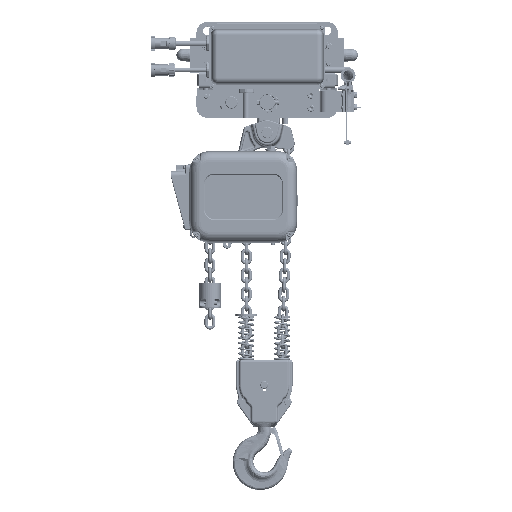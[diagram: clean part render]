
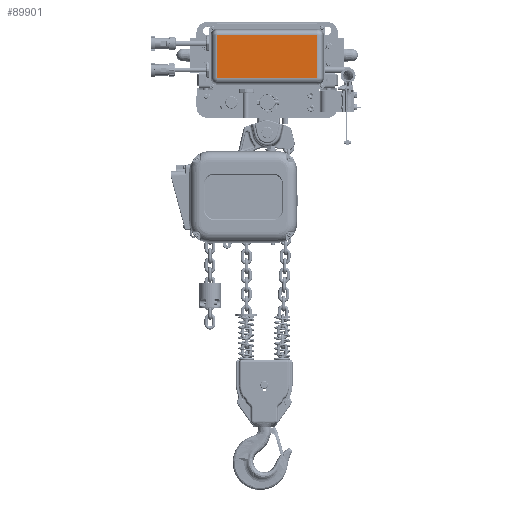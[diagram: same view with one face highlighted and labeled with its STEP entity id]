
A CAD part, top view. The second image highlights one B-rep face of the part: STEP entity #89901.
In plain terms, the highlighted planar face has unit normal (0, 0, 1) as drawn and (-1, 0, 0) by its records, which use the part's own axes.
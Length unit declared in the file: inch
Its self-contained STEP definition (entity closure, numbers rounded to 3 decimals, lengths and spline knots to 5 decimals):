
#8597 = CARTESIAN_POINT ( 'NONE',  ( -2.71654, 0.98144, 0.73446 ) ) ;
#23821 = EDGE_CURVE ( 'NONE', #378549, #71787, #36379, .T. ) ;
#32772 = EDGE_CURVE ( 'NONE', #71787, #352364, #250402, .T. ) ;
#36379 = LINE ( 'NONE', #395771, #359039 ) ;
#61605 = VECTOR ( 'NONE', #300827, 39.37008 ) ;
#64967 = CARTESIAN_POINT ( 'NONE',  ( -2.71654, 0.98144, 9.75453 ) ) ;
#71787 = VERTEX_POINT ( 'NONE', #388350 ) ;
#83465 = DIRECTION ( 'NONE',  ( 0., 0., 1. ) ) ;
#89901 = ADVANCED_FACE ( 'NONE', ( #100882 ), #345815, .T. ) ;
#100882 = FACE_OUTER_BOUND ( 'NONE', #146696, .T. ) ;
#103981 = VECTOR ( 'NONE', #186133, 39.37008 ) ;
#123447 = VECTOR ( 'NONE', #83465, 39.37008 ) ;
#128987 = DIRECTION ( 'NONE',  ( -1., 0., 0. ) ) ;
#146696 = EDGE_LOOP ( 'NONE', ( #290391, #189829, #222218, #284360 ) ) ;
#156022 = CARTESIAN_POINT ( 'NONE',  ( -2.71654, 4.84533, 10.47244 ) ) ;
#178360 = CARTESIAN_POINT ( 'NONE',  ( -2.71654, -2.25031, 0.73446 ) ) ;
#186133 = DIRECTION ( 'NONE',  ( 0., 0., -1. ) ) ;
#189829 = ORIENTED_EDGE ( 'NONE', *, *, #23821, .T. ) ;
#206364 = EDGE_CURVE ( 'NONE', #320047, #378549, #358489, .T. ) ;
#222218 = ORIENTED_EDGE ( 'NONE', *, *, #32772, .T. ) ;
#225360 = CARTESIAN_POINT ( 'NONE',  ( -2.71654, -2.25031, 10.47244 ) ) ;
#249180 = DIRECTION ( 'NONE',  ( 0., 1., 0. ) ) ;
#250402 = LINE ( 'NONE', #156022, #103981 ) ;
#284360 = ORIENTED_EDGE ( 'NONE', *, *, #376905, .T. ) ;
#289530 = DIRECTION ( 'NONE',  ( 0., 0., 1. ) ) ;
#290391 = ORIENTED_EDGE ( 'NONE', *, *, #206364, .T. ) ;
#292538 = CARTESIAN_POINT ( 'NONE',  ( -2.71654, 4.84533, 0.73446 ) ) ;
#300827 = DIRECTION ( 'NONE',  ( 0., -1., 0. ) ) ;
#320047 = VERTEX_POINT ( 'NONE', #8597 ) ;
#321417 = AXIS2_PLACEMENT_3D ( 'NONE', #225360, #128987, #289530 ) ;
#330970 = LINE ( 'NONE', #178360, #61605 ) ;
#345815 = PLANE ( 'NONE',  #321417 ) ;
#352364 = VERTEX_POINT ( 'NONE', #292538 ) ;
#358489 = LINE ( 'NONE', #396458, #123447 ) ;
#359039 = VECTOR ( 'NONE', #249180, 39.37008 ) ;
#376905 = EDGE_CURVE ( 'NONE', #352364, #320047, #330970, .T. ) ;
#378549 = VERTEX_POINT ( 'NONE', #64967 ) ;
#388350 = CARTESIAN_POINT ( 'NONE',  ( -2.71654, 4.84533, 9.75453 ) ) ;
#395771 = CARTESIAN_POINT ( 'NONE',  ( -2.71654, 5.33958, 9.75453 ) ) ;
#396458 = CARTESIAN_POINT ( 'NONE',  ( -2.71654, 0.98144, 10.47244 ) ) ;
